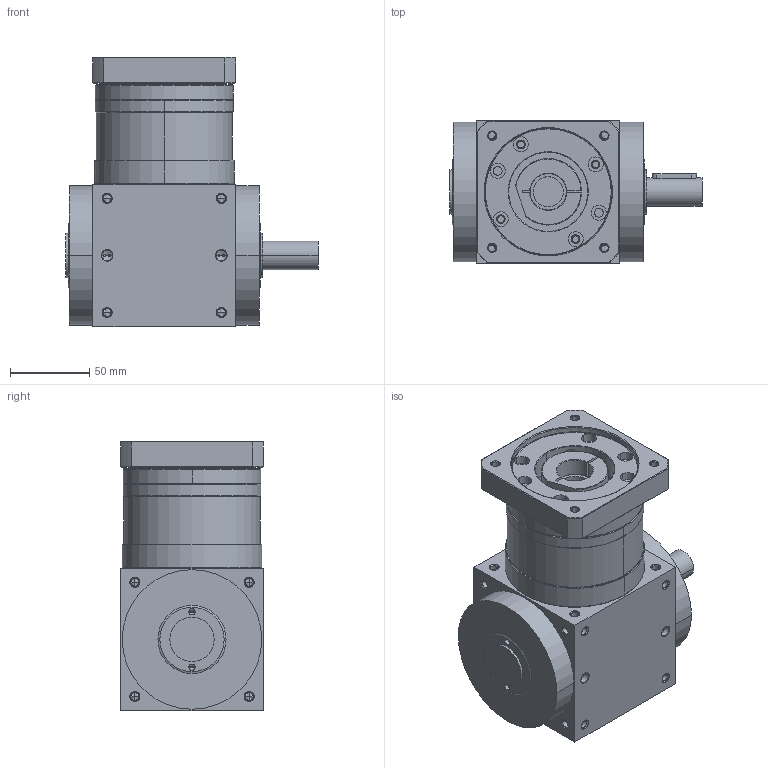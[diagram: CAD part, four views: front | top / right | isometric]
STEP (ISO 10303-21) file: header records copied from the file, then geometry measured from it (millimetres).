
FILE_DESCRIPTION((''),'2;1');
FILE_NAME('ATB090FR11-P0403300603_ASM','2014-07-29T',('d01544'),('APEX'),'PRO/ENGINEER BY PARAMETRIC TECHNOLOGY CORPORATION, 2008410','PRO/ENGINEER BY PARAMETRIC TECHNOLOGY CORPORATION, 2008410','');
FILE_SCHEMA(('CONFIG_CONTROL_DESIGN'));
Length unit declared in the file: millimetre
Products named in the file (6): ATB090FR1-A; P1820400001; P1502400001; P0501300001; P0403300603; ATB090FR11-P0403300603_ASM
Assembly tree (5 placements, depth 2):
  ATB090FR11-P0403300603_ASM
    ATB090FR1-A
    P1820400001
    P1502400001
    P0501300001
    P0403300603
Bounding box: 159 x 90 x 170 mm (x, y, z)
Volume: 1224038.6 mm3; surface area: 159847.8 mm2
Topology: 5 solids, 46 shells, 758 faces, 1899 edges, 1148 vertices
Faces by surface type: cylinder 345, cone 264, plane 113, torus 32, bspline 4
Entity records: 23418 total; most frequent: CARTESIAN_POINT 5120, DIRECTION 4088, ORIENTED_EDGE 3486, EDGE_CURVE 1825, AXIS2_PLACEMENT_3D 1715, VERTEX_POINT 1148, CIRCLE 940, EDGE_LOOP 921
